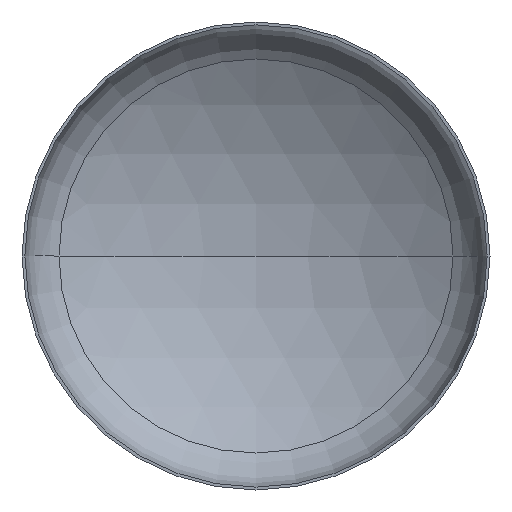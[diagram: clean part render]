
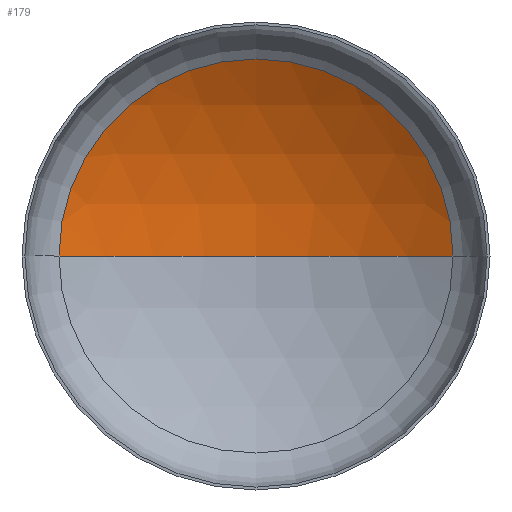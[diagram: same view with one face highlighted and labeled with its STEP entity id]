
A CAD part, front view. The second image highlights one B-rep face of the part: STEP entity #179.
In plain terms, the highlighted spherical face has radius 1040 mm.
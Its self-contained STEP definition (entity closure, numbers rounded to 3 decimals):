
#1 = ORIENTED_EDGE ( 'NONE', *, *, #342, .T. ) ;
#6 = AXIS2_PLACEMENT_3D ( 'NONE', #129, #135, #106 ) ;
#8 = EDGE_LOOP ( 'NONE', ( #16, #49, #1 ) ) ;
#13 = AXIS2_PLACEMENT_3D ( 'NONE', #388, #273, #333 ) ;
#16 = ORIENTED_EDGE ( 'NONE', *, *, #371, .F. ) ;
#49 = ORIENTED_EDGE ( 'NONE', *, *, #350, .T. ) ;
#58 = AXIS2_PLACEMENT_3D ( 'NONE', #297, #187, #213 ) ;
#86 = VERTEX_POINT ( 'NONE', #223 ) ;
#98 = VERTEX_POINT ( 'NONE', #225 ) ;
#106 = DIRECTION ( 'NONE',  ( -1., 0., 0. ) ) ;
#113 = VERTEX_POINT ( 'NONE', #355 ) ;
#129 = CARTESIAN_POINT ( 'NONE',  ( 0., -689.308, 0. ) ) ;
#135 = DIRECTION ( 'NONE',  ( 0., 0., -1. ) ) ;
#174 = FACE_OUTER_BOUND ( 'NONE', #8, .T. ) ;
#179 = ADVANCED_FACE ( 'NONE', ( #174 ), #184, .F. ) ;
#184 = SPHERICAL_SURFACE ( 'NONE', #58, 1040. ) ;
#185 = DIRECTION ( 'NONE',  ( 0., 0., 1. ) ) ;
#187 = DIRECTION ( 'NONE',  ( 0., 0., -1. ) ) ;
#205 = CIRCLE ( 'NONE', #13, 547.238 ) ;
#213 = DIRECTION ( 'NONE',  ( -1., 0., 0. ) ) ;
#223 = CARTESIAN_POINT ( 'NONE',  ( -547.238, 195.073, 0. ) ) ;
#225 = CARTESIAN_POINT ( 'NONE',  ( 0., 350.692, 0. ) ) ;
#258 = CIRCLE ( 'NONE', #340, 1040. ) ;
#265 = CIRCLE ( 'NONE', #6, 1040. ) ;
#273 = DIRECTION ( 'NONE',  ( 0., -1., 0. ) ) ;
#297 = CARTESIAN_POINT ( 'NONE',  ( 0., -689.308, 0. ) ) ;
#333 = DIRECTION ( 'NONE',  ( 1., 0., 0. ) ) ;
#340 = AXIS2_PLACEMENT_3D ( 'NONE', #409, #185, #365 ) ;
#342 = EDGE_CURVE ( 'NONE', #113, #86, #205, .T. ) ;
#350 = EDGE_CURVE ( 'NONE', #98, #113, #265, .T. ) ;
#355 = CARTESIAN_POINT ( 'NONE',  ( 547.238, 195.073, 0. ) ) ;
#365 = DIRECTION ( 'NONE',  ( 1., 0., 0. ) ) ;
#371 = EDGE_CURVE ( 'NONE', #98, #86, #258, .T. ) ;
#388 = CARTESIAN_POINT ( 'NONE',  ( 0., 195.073, 0. ) ) ;
#409 = CARTESIAN_POINT ( 'NONE',  ( 0., -689.308, 0. ) ) ;
